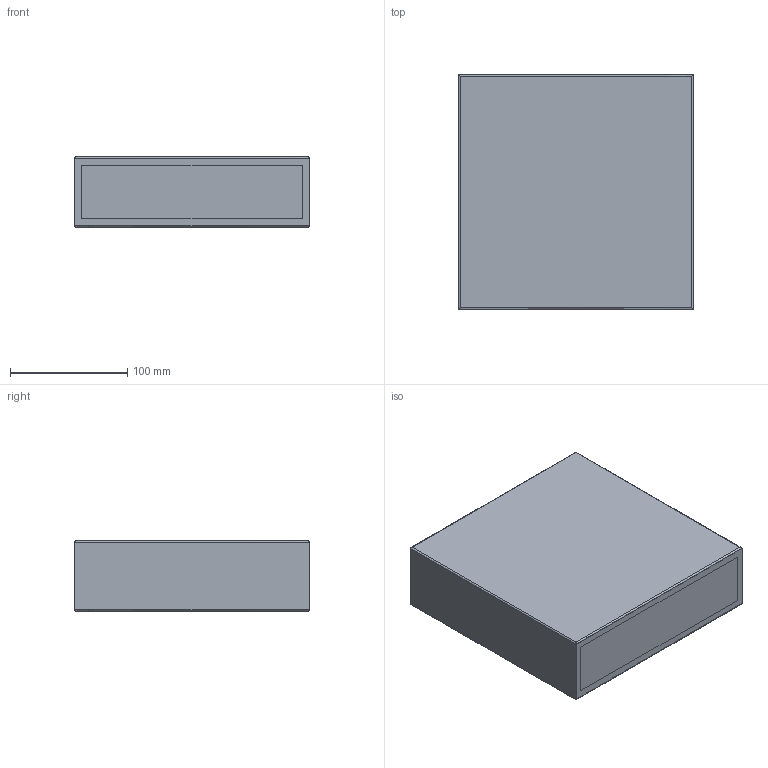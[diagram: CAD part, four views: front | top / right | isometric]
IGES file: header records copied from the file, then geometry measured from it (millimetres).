
Start section: SolidWorks IGES file using analytic representation for surfaces
Global section: file name: C:\Users\JoãoSantos\Desktop\02_3D.2D\01_2020\03_Diffuse\03_Barcelos\01_Barcelos\BARCELOS OUT.IGS; native system: SolidWorks 2020; preprocessor: SolidWorks 2020; author: JoãoSantos; date: 201023.154418; units: millimetre
Bounding box: 200 x 200 x 60 mm (x, y, z)
Surface area: 240336.5 mm2 (no closed solid volume)
Topology: 0 solids, 0 shells, 30 faces, 208 edges, 208 vertices
Faces by surface type: bspline 22, revolution 8
